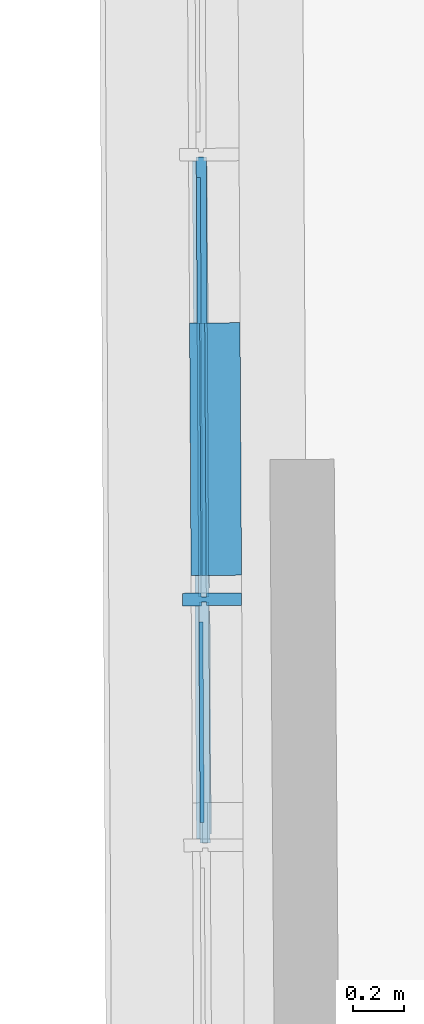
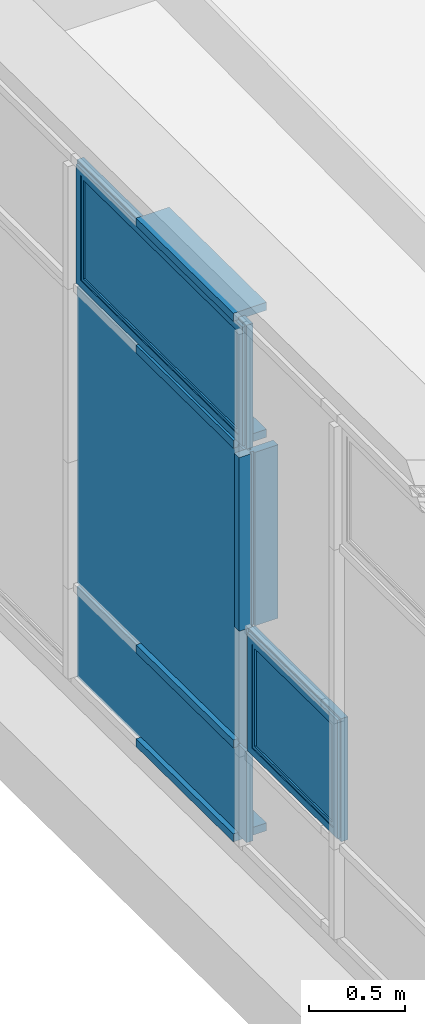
# One storey, part 92 of 158: 11 building element parts, 1 element without a shape of its own.
"""IFC2X3 building model written with IfcOpenShell, lengths in metres."""

from ifc_helpers import new_model, entity, si_unit, converted_unit, derived_unit, money_unit, direction, frame, origin_with_axes, place, context, subcontext, project, spatial, faceted_brep, material, type_object, element, aggregate, save


model = new_model("IFC2X3")

# Units and contexts
model_context = context("Model", 3, precision=1e-05, world=origin_with_axes(), true_north=direction((0.0, 1.0)))
body_context = subcontext(model_context, "Body", "Model", "MODEL_VIEW")
ifc_project = project(units=[si_unit("LENGTHUNIT", "METRE"), si_unit("AREAUNIT", "SQUARE_METRE"), si_unit("VOLUMEUNIT", "CUBIC_METRE"), converted_unit("PLANEANGLEUNIT", "DEGREE", entity("IfcPlaneAngleMeasure", 0.0174532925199), si_unit("PLANEANGLEUNIT", "RADIAN"), dimensions=[0, 0, 0, 0, 0, 0, 0]), money_unit("EUR"), converted_unit("TIMEUNIT", "Year", entity("IfcTimeMeasure", 31556926.0), si_unit("TIMEUNIT", "SECOND"), dimensions=[0, 0, 1, 0, 0, 0, 0]), si_unit("MASSUNIT", "GRAM", prefix="KILO"), si_unit("THERMODYNAMICTEMPERATUREUNIT", "DEGREE_CELSIUS"), si_unit("LUMINOUSINTENSITYUNIT", "LUMEN"), si_unit("ENERGYUNIT", "JOULE", prefix="MEGA"), derived_unit("THERMALCONDUCTANCEUNIT", [(si_unit("POWERUNIT", "WATT"), 1), (si_unit("LENGTHUNIT", "METRE"), -1), (si_unit("THERMODYNAMICTEMPERATUREUNIT", "KELVIN"), -1)]), derived_unit("SPECIFICHEATCAPACITYUNIT", [(si_unit("ENERGYUNIT", "JOULE"), 1), (si_unit("MASSUNIT", "GRAM", prefix="KILO"), -1), (si_unit("THERMODYNAMICTEMPERATUREUNIT", "KELVIN"), -1)]), derived_unit("MASSDENSITYUNIT", [(si_unit("MASSUNIT", "GRAM", prefix="KILO"), 1), (si_unit("VOLUMEUNIT", "CUBIC_METRE"), -1)])], contexts=[model_context])

# Site, building, storey
site_placement = place(None, origin_with_axes())
site = spatial("IfcSite", under=ifc_project, at=site_placement, Name="Gelände", CompositionType="ELEMENT")
building_placement = place(site_placement, origin_with_axes())
building = spatial("IfcBuilding", under=site, at=building_placement, Name="Gebäude", CompositionType="ELEMENT")
storey_placement = place(building_placement, origin_with_axes())
storey = spatial("IfcBuildingStorey", under=building, at=storey_placement, Name="ERDGESCHOSS", CompositionType="ELEMENT", Elevation=0.0)

# Proxy, building element parts
building_element_proxy_type = type_object("IfcBuildingElementProxyType", Name="Fassadentyp", PredefinedType="NOTDEFINED")
proxy_placement = place(storey_placement, frame((-34.8120286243, 34.4012060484, 1.3404389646), z_axis=(0.0, 0.0, 1.0), x_axis=(1.0, 0.0, 0.0)))
proxy = element("IfcBuildingElementProxy", 1, at=proxy_placement, inside=storey, type_object=building_element_proxy_type, Name="Fassade-002")
ifc_material_1 = material(Name="53_Metall, Aluminium")
building_element_part_1_placement = place(proxy_placement, origin_with_axes())
building_element_part_1 = element("IfcBuildingElementPart", 2, at=building_element_part_1_placement, material=ifc_material_1, Name="53_Metall, Aluminium", context=body_context, shape_type="Brep", body=[
    faceted_brep([(-0.0435048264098, 2.30259582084, 2.54500008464), (-0.0334678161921, 0.591203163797, 2.54500008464), (-0.038467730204, 0.5911738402, 2.54500008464), (-0.0485047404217, 2.30256649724, 2.54500008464), (-0.0432409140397, 2.25759659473, 2.59000008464), (-0.0337317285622, 0.636202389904, 2.59000008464), (-0.0387316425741, 0.636173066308, 2.59000008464), (-0.0482408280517, 2.25756727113, 2.59000008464)], [[[0, 1, 2, 3]], [[0, 4, 5, 1]], [[1, 5, 6, 2]], [[3, 2, 6, 7]], [[4, 0, 3, 7]], [[5, 4, 7, 6]]]),
    faceted_brep([(-0.0334678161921, 0.591203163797, 2.54500008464), (-0.0334678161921, 0.591203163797, 3.30000000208), (-0.038467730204, 0.5911738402, 3.30000000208), (-0.038467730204, 0.5911738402, 2.54500008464), (-0.0337317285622, 0.636202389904, 2.59000008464), (-0.0337317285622, 0.636202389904, 3.25500000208), (-0.0387316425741, 0.636173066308, 3.25500000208), (-0.0387316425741, 0.636173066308, 2.59000008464)], [[[0, 1, 2, 3]], [[0, 4, 5, 1]], [[1, 5, 6, 2]], [[3, 2, 6, 7]], [[4, 0, 3, 7]], [[5, 4, 7, 6]]]),
    faceted_brep([(-0.0435048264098, 2.30259582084, 3.30000000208), (-0.0432409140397, 2.25759659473, 3.25500000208), (-0.0482408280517, 2.25756727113, 3.25500000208), (-0.0485047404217, 2.30256649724, 3.30000000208), (-0.0334678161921, 0.591203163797, 3.30000000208), (-0.0337317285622, 0.636202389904, 3.25500000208), (-0.0387316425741, 0.636173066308, 3.25500000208), (-0.038467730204, 0.5911738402, 3.30000000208)], [[[0, 1, 2, 3]], [[0, 4, 5, 1]], [[1, 5, 6, 2]], [[3, 2, 6, 7]], [[4, 0, 3, 7]], [[5, 4, 7, 6]]]),
    faceted_brep([(-0.0435048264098, 2.30259582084, 2.54500008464), (-0.0432409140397, 2.25759659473, 2.59000008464), (-0.0482408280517, 2.25756727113, 2.59000008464), (-0.0485047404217, 2.30256649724, 2.54500008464), (-0.0435048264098, 2.30259582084, 3.30000000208), (-0.0432409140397, 2.25759659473, 3.25500000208), (-0.0482408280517, 2.25756727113, 3.25500000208), (-0.0485047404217, 2.30256649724, 3.30000000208)], [[[0, 1, 2, 3]], [[0, 4, 5, 1]], [[1, 5, 6, 2]], [[3, 2, 6, 7]], [[4, 0, 3, 7]], [[5, 4, 7, 6]]]),
    faceted_brep([(0.00649431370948, 2.3028890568, 2.54500008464), (0.0165313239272, 0.591496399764, 2.54500008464), (-0.0334678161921, 0.591203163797, 2.54500008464), (-0.0435048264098, 2.30259582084, 2.54500008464), (0.00661160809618, 2.28288940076, 2.56500008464), (0.0164140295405, 0.611496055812, 2.56500008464), (-0.0335851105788, 0.611202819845, 2.56500008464), (-0.0433875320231, 2.28259616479, 2.56500008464)], [[[0, 1, 2, 3]], [[0, 4, 5, 1]], [[1, 5, 6, 2]], [[3, 2, 6, 7]], [[4, 0, 3, 7]], [[5, 4, 7, 6]]]),
    faceted_brep([(0.0165313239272, 0.591496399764, 2.54500008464), (0.0165313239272, 0.591496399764, 3.30000000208), (-0.0334678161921, 0.591203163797, 3.30000000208), (-0.0334678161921, 0.591203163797, 2.54500008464), (0.0164140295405, 0.611496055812, 2.56500008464), (0.0164140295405, 0.611496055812, 3.28000000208), (-0.0335851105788, 0.611202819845, 3.28000000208), (-0.0335851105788, 0.611202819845, 2.56500008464)], [[[0, 1, 2, 3]], [[0, 4, 5, 1]], [[1, 5, 6, 2]], [[3, 2, 6, 7]], [[4, 0, 3, 7]], [[5, 4, 7, 6]]]),
    faceted_brep([(0.00649431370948, 2.3028890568, 3.30000000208), (0.00661160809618, 2.28288940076, 3.28000000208), (-0.0433875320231, 2.28259616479, 3.28000000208), (-0.0435048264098, 2.30259582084, 3.30000000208), (0.0165313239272, 0.591496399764, 3.30000000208), (0.0164140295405, 0.611496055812, 3.28000000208), (-0.0335851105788, 0.611202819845, 3.28000000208), (-0.0334678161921, 0.591203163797, 3.30000000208)], [[[0, 1, 2, 3]], [[0, 4, 5, 1]], [[1, 5, 6, 2]], [[3, 2, 6, 7]], [[4, 0, 3, 7]], [[5, 4, 7, 6]]]),
    faceted_brep([(0.00649431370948, 2.3028890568, 2.54500008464), (0.00661160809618, 2.28288940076, 2.56500008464), (-0.0433875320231, 2.28259616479, 2.56500008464), (-0.0435048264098, 2.30259582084, 2.54500008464), (0.00649431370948, 2.3028890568, 3.30000000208), (0.00661160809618, 2.28288940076, 3.28000000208), (-0.0433875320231, 2.28259616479, 3.28000000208), (-0.0435048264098, 2.30259582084, 3.30000000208)], [[[0, 1, 2, 3]], [[0, 4, 5, 1]], [[1, 5, 6, 2]], [[3, 2, 6, 7]], [[4, 0, 3, 7]], [[5, 4, 7, 6]]]),
    faceted_brep([(0.00640634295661, 2.31788879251, 2.53000009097), (0.0166192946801, 0.576496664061, 2.53000009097), (-0.0233800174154, 0.576262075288, 2.53000009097), (-0.0335929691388, 2.31765420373, 2.53000009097), (0.00649431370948, 2.3028890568, 2.54500008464), (0.0165313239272, 0.591496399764, 2.54500008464), (-0.0234679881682, 0.59126181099, 2.54500008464), (-0.0335049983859, 2.30265446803, 2.54500008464)], [[[0, 1, 2, 3]], [[0, 4, 5, 1]], [[1, 5, 6, 2]], [[3, 2, 6, 7]], [[4, 0, 3, 7]], [[5, 4, 7, 6]]]),
    faceted_brep([(0.0166192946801, 0.576496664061, 2.53000009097), (0.0166192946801, 0.576496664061, 3.31499999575), (-0.0233800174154, 0.576262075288, 3.31499999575), (-0.0233800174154, 0.576262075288, 2.53000009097), (0.0165313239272, 0.591496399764, 2.54500008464), (0.0165313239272, 0.591496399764, 3.30000000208), (-0.0234679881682, 0.59126181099, 3.30000000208), (-0.0234679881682, 0.59126181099, 2.54500008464)], [[[0, 1, 2, 3]], [[0, 4, 5, 1]], [[1, 5, 6, 2]], [[3, 2, 6, 7]], [[4, 0, 3, 7]], [[5, 4, 7, 6]]]),
    faceted_brep([(0.0166192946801, 0.576496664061, 3.31499999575), (0.00640634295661, 2.31788879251, 3.31499999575), (-0.0335929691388, 2.31765420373, 3.31499999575), (-0.0233800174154, 0.576262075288, 3.31499999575), (0.0165313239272, 0.591496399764, 3.30000000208), (0.00649431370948, 2.3028890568, 3.30000000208), (-0.0335049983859, 2.30265446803, 3.30000000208), (-0.0234679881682, 0.59126181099, 3.30000000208)], [[[0, 1, 2, 3]], [[0, 4, 5, 1]], [[1, 5, 6, 2]], [[3, 2, 6, 7]], [[4, 0, 3, 7]], [[5, 4, 7, 6]]]),
    faceted_brep([(0.00640634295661, 2.31788879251, 3.31499999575), (0.00640634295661, 2.31788879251, 2.53000009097), (-0.0335929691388, 2.31765420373, 2.53000009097), (-0.0335929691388, 2.31765420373, 3.31499999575), (0.00649431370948, 2.3028890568, 3.30000000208), (0.00649431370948, 2.3028890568, 2.54500008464), (-0.0335049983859, 2.30265446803, 2.54500008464), (-0.0335049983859, 2.30265446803, 3.30000000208)], [[[0, 1, 2, 3]], [[0, 4, 5, 1]], [[1, 5, 6, 2]], [[3, 2, 6, 7]], [[4, 0, 3, 7]], [[5, 4, 7, 6]]]),
    faceted_brep([(-0.043123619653, 2.23759693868, 2.61000008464), (0.0118754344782, 2.23791949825, 2.61000008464), (0.0118754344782, 2.23791949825, 3.23500000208), (-0.043123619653, 2.23759693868, 3.23500000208), (-0.0433875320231, 2.28259616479, 2.56500008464), (0.0116115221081, 2.28291872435, 2.56500008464), (0.0116115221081, 2.28291872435, 3.28000000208), (-0.0433875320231, 2.28259616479, 3.28000000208)], [[[0, 1, 2, 3]], [[4, 5, 1, 0]], [[1, 5, 6, 2]], [[3, 2, 6, 7]], [[0, 3, 7, 4]], [[7, 6, 5, 4]]]),
    faceted_brep([(-0.0335851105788, 0.611202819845, 2.56500008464), (0.0214139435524, 0.611525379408, 2.56500008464), (0.0214139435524, 0.611525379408, 3.28000000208), (-0.0335851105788, 0.611202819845, 3.28000000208), (-0.0338490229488, 0.656202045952, 2.61000008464), (0.0211500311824, 0.656524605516, 2.61000008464), (0.0211500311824, 0.656524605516, 3.23500000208), (-0.0338490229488, 0.656202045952, 3.23500000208)], [[[0, 1, 2, 3]], [[4, 5, 1, 0]], [[1, 5, 6, 2]], [[3, 2, 6, 7]], [[0, 3, 7, 4]], [[7, 6, 5, 4]]]),
    faceted_brep([(-0.0335851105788, 0.611202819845, 2.56500008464), (0.0214139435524, 0.611525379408, 2.56500008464), (0.0211500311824, 0.656524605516, 2.61000008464), (-0.0338490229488, 0.656202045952, 2.61000008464), (-0.0433875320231, 2.28259616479, 2.56500008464), (0.0116115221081, 2.28291872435, 2.56500008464), (0.0118754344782, 2.23791949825, 2.61000008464), (-0.043123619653, 2.23759693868, 2.61000008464)], [[[0, 1, 2, 3]], [[4, 5, 1, 0]], [[1, 5, 6, 2]], [[3, 2, 6, 7]], [[0, 3, 7, 4]], [[7, 6, 5, 4]]]),
    faceted_brep([(-0.0433875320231, 2.28259616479, 3.28000000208), (0.0116115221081, 2.28291872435, 3.28000000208), (0.0118754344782, 2.23791949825, 3.23500000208), (-0.043123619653, 2.23759693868, 3.23500000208), (-0.0335851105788, 0.611202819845, 3.28000000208), (0.0214139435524, 0.611525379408, 3.28000000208), (0.0211500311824, 0.656524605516, 3.23500000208), (-0.0338490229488, 0.656202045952, 3.23500000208)], [[[0, 1, 2, 3]], [[4, 5, 1, 0]], [[1, 5, 6, 2]], [[3, 2, 6, 7]], [[0, 3, 7, 4]], [[7, 6, 5, 4]]]),
])
ifc_material_2 = material(Name="45_Glas, Normalglas")
building_element_part_2_placement = place(proxy_placement, origin_with_axes())
building_element_part_2 = element("IfcBuildingElementPart", 3, at=building_element_part_2_placement, material=ifc_material_2, Name="45_Glas, Normalglas", context=body_context, shape_type="Brep", body=[
    faceted_brep([(-0.0331237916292, 2.23765558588, 2.61000008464), (-0.017124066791, 2.23774942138, 2.61000008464), (-0.00784947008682, 0.656354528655, 2.61000008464), (-0.023849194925, 0.656260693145, 2.61000008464), (-0.0331237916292, 2.23765558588, 3.23500000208), (-0.017124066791, 2.23774942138, 3.23500000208), (-0.00784947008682, 0.656354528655, 3.23500000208), (-0.023849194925, 0.656260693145, 3.23500000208)], [[[0, 1, 2, 3]], [[4, 5, 1, 0]], [[1, 5, 6, 2]], [[3, 2, 6, 7]], [[0, 3, 7, 4]], [[7, 6, 5, 4]]]),
])
building_element_part_3_placement = place(proxy_placement, origin_with_axes())
building_element_part_3 = element("IfcBuildingElementPart", 4, at=building_element_part_3_placement, material=ifc_material_1, Name="53_Metall, Aluminium", context=body_context, shape_type="Brep", body=[
    faceted_brep([(-0.0331745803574, 0.541204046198, 0.645000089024), (-0.0277569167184, -0.382552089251, 0.645000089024), (-0.0327568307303, -0.382581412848, 0.645000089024), (-0.0381744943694, 0.541174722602, 0.645000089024), (-0.0329106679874, 0.496204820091, 0.690000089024), (-0.0280208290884, -0.337552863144, 0.690000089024), (-0.0330207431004, -0.337582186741, 0.690000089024), (-0.0379105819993, 0.496175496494, 0.690000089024)], [[[0, 1, 2, 3]], [[0, 4, 5, 1]], [[1, 5, 6, 2]], [[3, 2, 6, 7]], [[4, 0, 3, 7]], [[5, 4, 7, 6]]]),
    faceted_brep([(-0.0277569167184, -0.382552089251, 0.645000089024), (-0.0277569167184, -0.382552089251, 1.39500009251), (-0.0327568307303, -0.382581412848, 1.39500009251), (-0.0327568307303, -0.382581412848, 0.645000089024), (-0.0280208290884, -0.337552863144, 0.690000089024), (-0.0280208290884, -0.337552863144, 1.35000009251), (-0.0330207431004, -0.337582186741, 1.35000009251), (-0.0330207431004, -0.337582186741, 0.690000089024)], [[[0, 1, 2, 3]], [[0, 4, 5, 1]], [[1, 5, 6, 2]], [[3, 2, 6, 7]], [[4, 0, 3, 7]], [[5, 4, 7, 6]]]),
    faceted_brep([(-0.0331745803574, 0.541204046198, 1.39500009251), (-0.0329106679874, 0.496204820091, 1.35000009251), (-0.0379105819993, 0.496175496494, 1.35000009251), (-0.0381744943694, 0.541174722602, 1.39500009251), (-0.0277569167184, -0.382552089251, 1.39500009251), (-0.0280208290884, -0.337552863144, 1.35000009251), (-0.0330207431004, -0.337582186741, 1.35000009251), (-0.0327568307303, -0.382581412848, 1.39500009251)], [[[0, 1, 2, 3]], [[0, 4, 5, 1]], [[1, 5, 6, 2]], [[3, 2, 6, 7]], [[4, 0, 3, 7]], [[5, 4, 7, 6]]]),
    faceted_brep([(-0.0331745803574, 0.541204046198, 0.645000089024), (-0.0329106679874, 0.496204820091, 0.690000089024), (-0.0379105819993, 0.496175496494, 0.690000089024), (-0.0381744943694, 0.541174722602, 0.645000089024), (-0.0331745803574, 0.541204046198, 1.39500009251), (-0.0329106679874, 0.496204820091, 1.35000009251), (-0.0379105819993, 0.496175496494, 1.35000009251), (-0.0381744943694, 0.541174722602, 1.39500009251)], [[[0, 1, 2, 3]], [[0, 4, 5, 1]], [[1, 5, 6, 2]], [[3, 2, 6, 7]], [[4, 0, 3, 7]], [[5, 4, 7, 6]]]),
    faceted_brep([(0.0168245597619, 0.541497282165, 0.645000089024), (0.0222422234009, -0.382258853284, 0.645000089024), (-0.0277569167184, -0.382552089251, 0.645000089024), (-0.0331745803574, 0.541204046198, 0.645000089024), (0.0169418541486, 0.521497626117, 0.665000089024), (0.0221249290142, -0.362259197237, 0.665000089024), (-0.0278742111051, -0.362552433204, 0.665000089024), (-0.0330572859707, 0.521204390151, 0.665000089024)], [[[0, 1, 2, 3]], [[0, 4, 5, 1]], [[1, 5, 6, 2]], [[3, 2, 6, 7]], [[4, 0, 3, 7]], [[5, 4, 7, 6]]]),
    faceted_brep([(0.0222422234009, -0.382258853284, 0.645000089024), (0.0222422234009, -0.382258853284, 1.39500009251), (-0.0277569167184, -0.382552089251, 1.39500009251), (-0.0277569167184, -0.382552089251, 0.645000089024), (0.0221249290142, -0.362259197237, 0.665000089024), (0.0221249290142, -0.362259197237, 1.37500009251), (-0.0278742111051, -0.362552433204, 1.37500009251), (-0.0278742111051, -0.362552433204, 0.665000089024)], [[[0, 1, 2, 3]], [[0, 4, 5, 1]], [[1, 5, 6, 2]], [[3, 2, 6, 7]], [[4, 0, 3, 7]], [[5, 4, 7, 6]]]),
    faceted_brep([(0.0168245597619, 0.541497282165, 1.39500009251), (0.0169418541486, 0.521497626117, 1.37500009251), (-0.0330572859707, 0.521204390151, 1.37500009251), (-0.0331745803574, 0.541204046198, 1.39500009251), (0.0222422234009, -0.382258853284, 1.39500009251), (0.0221249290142, -0.362259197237, 1.37500009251), (-0.0278742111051, -0.362552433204, 1.37500009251), (-0.0277569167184, -0.382552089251, 1.39500009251)], [[[0, 1, 2, 3]], [[0, 4, 5, 1]], [[1, 5, 6, 2]], [[3, 2, 6, 7]], [[4, 0, 3, 7]], [[5, 4, 7, 6]]]),
    faceted_brep([(0.0168245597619, 0.541497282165, 0.645000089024), (0.0169418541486, 0.521497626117, 0.665000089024), (-0.0330572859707, 0.521204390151, 0.665000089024), (-0.0331745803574, 0.541204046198, 0.645000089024), (0.0168245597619, 0.541497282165, 1.39500009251), (0.0169418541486, 0.521497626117, 1.37500009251), (-0.0330572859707, 0.521204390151, 1.37500009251), (-0.0331745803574, 0.541204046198, 1.39500009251)], [[[0, 1, 2, 3]], [[0, 4, 5, 1]], [[1, 5, 6, 2]], [[3, 2, 6, 7]], [[4, 0, 3, 7]], [[5, 4, 7, 6]]]),
    faceted_brep([(0.0167365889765, 0.5564970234, 0.630000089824), (0.0223301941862, -0.397258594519, 0.630000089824), (-0.0176691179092, -0.397493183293, 0.630000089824), (-0.0232627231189, 0.556262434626, 0.630000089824), (0.0168245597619, 0.541497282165, 0.645000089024), (0.0222422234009, -0.382258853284, 0.645000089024), (-0.0177570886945, -0.382493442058, 0.645000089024), (-0.0231747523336, 0.541262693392, 0.645000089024)], [[[0, 1, 2, 3]], [[0, 4, 5, 1]], [[1, 5, 6, 2]], [[3, 2, 6, 7]], [[4, 0, 3, 7]], [[5, 4, 7, 6]]]),
    faceted_brep([(0.0223301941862, -0.397258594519, 0.630000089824), (0.0223301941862, -0.397258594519, 1.41000009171), (-0.0176691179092, -0.397493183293, 1.41000009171), (-0.0176691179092, -0.397493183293, 0.630000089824), (0.0222422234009, -0.382258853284, 0.645000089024), (0.0222422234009, -0.382258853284, 1.39500009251), (-0.0177570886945, -0.382493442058, 1.39500009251), (-0.0177570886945, -0.382493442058, 0.645000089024)], [[[0, 1, 2, 3]], [[0, 4, 5, 1]], [[1, 5, 6, 2]], [[3, 2, 6, 7]], [[4, 0, 3, 7]], [[5, 4, 7, 6]]]),
    faceted_brep([(0.0223301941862, -0.397258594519, 1.41000009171), (0.0167365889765, 0.5564970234, 1.41000009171), (-0.0232627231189, 0.556262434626, 1.41000009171), (-0.0176691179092, -0.397493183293, 1.41000009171), (0.0222422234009, -0.382258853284, 1.39500009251), (0.0168245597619, 0.541497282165, 1.39500009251), (-0.0231747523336, 0.541262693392, 1.39500009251), (-0.0177570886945, -0.382493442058, 1.39500009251)], [[[0, 1, 2, 3]], [[0, 4, 5, 1]], [[1, 5, 6, 2]], [[3, 2, 6, 7]], [[4, 0, 3, 7]], [[5, 4, 7, 6]]]),
    faceted_brep([(0.0167365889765, 0.5564970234, 1.41000009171), (0.0167365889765, 0.5564970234, 0.630000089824), (-0.0232627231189, 0.556262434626, 0.630000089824), (-0.0232627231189, 0.556262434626, 1.41000009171), (0.0168245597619, 0.541497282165, 1.39500009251), (0.0168245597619, 0.541497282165, 0.645000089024), (-0.0231747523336, 0.541262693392, 0.645000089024), (-0.0231747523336, 0.541262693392, 1.39500009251)], [[[0, 1, 2, 3]], [[0, 4, 5, 1]], [[1, 5, 6, 2]], [[3, 2, 6, 7]], [[4, 0, 3, 7]], [[5, 4, 7, 6]]]),
    faceted_brep([(-0.0327933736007, 0.476205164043, 0.710000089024), (0.0222056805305, 0.476527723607, 0.710000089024), (0.0222056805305, 0.476527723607, 1.33000009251), (-0.0327933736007, 0.476205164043, 1.33000009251), (-0.0330572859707, 0.521204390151, 0.665000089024), (0.0219417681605, 0.521526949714, 0.665000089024), (0.0219417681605, 0.521526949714, 1.37500009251), (-0.0330572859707, 0.521204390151, 1.37500009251)], [[[0, 1, 2, 3]], [[4, 5, 1, 0]], [[1, 5, 6, 2]], [[3, 2, 6, 7]], [[0, 3, 7, 4]], [[7, 6, 5, 4]]]),
    faceted_brep([(-0.0278742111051, -0.362552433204, 0.665000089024), (0.0271248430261, -0.36222987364, 0.665000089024), (0.0271248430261, -0.36222987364, 1.37500009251), (-0.0278742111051, -0.362552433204, 1.37500009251), (-0.0281381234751, -0.317553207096, 0.710000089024), (0.0268609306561, -0.317230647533, 0.710000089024), (0.0268609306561, -0.317230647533, 1.33000009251), (-0.0281381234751, -0.317553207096, 1.33000009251)], [[[0, 1, 2, 3]], [[4, 5, 1, 0]], [[1, 5, 6, 2]], [[3, 2, 6, 7]], [[0, 3, 7, 4]], [[7, 6, 5, 4]]]),
    faceted_brep([(-0.0278742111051, -0.362552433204, 0.665000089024), (0.0271248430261, -0.36222987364, 0.665000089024), (0.0268609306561, -0.317230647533, 0.710000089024), (-0.0281381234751, -0.317553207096, 0.710000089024), (-0.0330572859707, 0.521204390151, 0.665000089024), (0.0219417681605, 0.521526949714, 0.665000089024), (0.0222056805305, 0.476527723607, 0.710000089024), (-0.0327933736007, 0.476205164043, 0.710000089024)], [[[0, 1, 2, 3]], [[4, 5, 1, 0]], [[1, 5, 6, 2]], [[3, 2, 6, 7]], [[0, 3, 7, 4]], [[7, 6, 5, 4]]]),
    faceted_brep([(-0.0330572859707, 0.521204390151, 1.37500009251), (0.0219417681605, 0.521526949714, 1.37500009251), (0.0222056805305, 0.476527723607, 1.33000009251), (-0.0327933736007, 0.476205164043, 1.33000009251), (-0.0278742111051, -0.362552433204, 1.37500009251), (0.0271248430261, -0.36222987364, 1.37500009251), (0.0268609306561, -0.317230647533, 1.33000009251), (-0.0281381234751, -0.317553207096, 1.33000009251)], [[[0, 1, 2, 3]], [[4, 5, 1, 0]], [[1, 5, 6, 2]], [[3, 2, 6, 7]], [[0, 3, 7, 4]], [[7, 6, 5, 4]]]),
])
building_element_part_4_placement = place(proxy_placement, origin_with_axes())
building_element_part_4 = element("IfcBuildingElementPart", 5, at=building_element_part_4_placement, material=ifc_material_2, Name="45_Glas, Normalglas", context=body_context, shape_type="Brep", body=[
    faceted_brep([(-0.0227935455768, 0.476263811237, 0.710000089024), (-0.00679382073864, 0.476357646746, 0.710000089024), (-0.00213857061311, -0.317400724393, 0.710000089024), (-0.0181382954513, -0.317494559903, 0.710000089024), (-0.0227935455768, 0.476263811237, 1.33000009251), (-0.00679382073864, 0.476357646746, 1.33000009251), (-0.00213857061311, -0.317400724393, 1.33000009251), (-0.0181382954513, -0.317494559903, 1.33000009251)], [[[0, 1, 2, 3]], [[4, 5, 1, 0]], [[1, 5, 6, 2]], [[3, 2, 6, 7]], [[0, 3, 7, 4]], [[7, 6, 5, 4]]]),
])
building_element_part_5_placement = place(proxy_placement, origin_with_axes())
building_element_part_5 = element("IfcBuildingElementPart", 6, at=building_element_part_5_placement, material=ifc_material_2, Name="45_Glas, Normalglas", context=body_context, shape_type="Brep", body=[
    faceted_brep([(0.0166192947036, 0.576496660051, 2.51000010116), (0.0161202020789, 0.661596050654, 2.51000010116), (-0.0238791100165, 0.661361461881, 2.51000010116), (-0.0233800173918, 0.576262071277, 2.51000010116), (0.0166192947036, 0.576496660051, 1.42000009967), (0.0166192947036, 0.576496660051, 0.630000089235), (0.0161202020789, 0.661596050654, 0.630000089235), (0.0102554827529, 1.66157885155, 0.630000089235), (0.00640634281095, 2.31788881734, 0.630000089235), (0.006406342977, 2.31788878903, 1.42000009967), (0.006406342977, 2.31788878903, 2.51000010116), (0.0102554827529, 1.66157885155, 2.51000010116), (-0.0297438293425, 1.66134426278, 2.51000010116), (-0.0335929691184, 2.31765420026, 2.51000010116), (-0.0335929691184, 2.31765420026, 1.42000009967), (-0.0335929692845, 2.31765422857, 0.630000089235), (-0.0297438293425, 1.66134426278, 0.630000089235), (-0.0238791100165, 0.661361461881, 0.630000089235), (-0.0233800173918, 0.576262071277, 0.630000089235), (-0.0233800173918, 0.576262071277, 1.42000009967)], [[[0, 1, 2, 3]], [[0, 4, 5, 6, 7, 8, 9, 10, 11, 1]], [[1, 11, 12, 2]], [[3, 2, 12, 13, 14, 15, 16, 17, 18, 19]], [[4, 0, 3, 19]], [[5, 4, 19, 18]], [[6, 5, 18, 17]], [[7, 6, 17, 16]], [[8, 7, 16, 15]], [[9, 8, 15, 14]], [[10, 9, 14, 13]], [[11, 10, 13, 12]]]),
])
building_element_part_6_placement = place(proxy_placement, origin_with_axes())
building_element_part_6 = element("IfcBuildingElementPart", 7, at=building_element_part_6_placement, material=ifc_material_2, Name="45_Glas, Normalglas", context=body_context, shape_type="Brep", body=[
    faceted_brep([(0.0166192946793, 0.576496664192, 0.6100000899), (0.0161202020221, 0.661596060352, 0.6100000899), (-0.0238791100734, 0.661361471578, 0.6100000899), (-0.0233800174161, 0.576262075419, 0.6100000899), (0.0166192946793, 0.576496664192, 0.0350000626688), (0.0161202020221, 0.661596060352, 0.0350000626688), (0.0102554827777, 1.66157884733, 0.0350000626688), (0.00640634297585, 2.31788878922, 0.0350000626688), (0.00640634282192, 2.31788881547, 0.6100000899), (0.0102554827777, 1.66157884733, 0.6100000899), (-0.0297438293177, 1.66134425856, 0.6100000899), (-0.0335929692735, 2.3176542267, 0.6100000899), (-0.0335929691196, 2.31765420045, 0.0350000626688), (-0.0297438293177, 1.66134425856, 0.0350000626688), (-0.0238791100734, 0.661361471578, 0.0350000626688), (-0.0233800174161, 0.576262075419, 0.0350000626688)], [[[0, 1, 2, 3]], [[0, 4, 5, 6, 7, 8, 9, 1]], [[1, 9, 10, 2]], [[3, 2, 10, 11, 12, 13, 14, 15]], [[4, 0, 3, 15]], [[5, 4, 15, 14]], [[6, 5, 14, 13]], [[7, 6, 13, 12]], [[8, 7, 12, 11]], [[9, 8, 11, 10]]]),
])
building_element_part_7_placement = place(proxy_placement, origin_with_axes())
building_element_part_7 = element("IfcBuildingElementPart", 8, at=building_element_part_7_placement, material=ifc_material_1, Name="53_Metall, Aluminium", context=body_context, shape_type="Brep", body=[
    faceted_brep([(0.00612037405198, 0.661537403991, 0.0350000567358), (-0.0138792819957, 0.661420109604, 0.0350000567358), (-0.0138792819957, 0.661420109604, 0.0500000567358), (-0.0538785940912, 0.661185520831, 0.0500000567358), (-0.0538785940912, 0.661185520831, 5.6735754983e-08), (0.146117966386, 0.662358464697, 5.6735754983e-08), (0.146117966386, 0.662358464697, 0.0500000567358), (0.00612037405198, 0.661537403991, 0.0500000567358), (0.000255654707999, 1.66152020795, 0.0350000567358), (-0.0197440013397, 1.66140291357, 0.0350000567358), (-0.0197440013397, 1.66140291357, 0.0500000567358), (-0.0597433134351, 1.66116832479, 0.0500000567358), (-0.0597433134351, 1.66116832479, 5.6735754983e-08), (0.140253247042, 1.66234126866, 5.6735754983e-08), (0.140253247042, 1.66234126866, 0.0500000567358), (0.000255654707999, 1.66152020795, 0.0500000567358)], [[[0, 1, 2, 3, 4, 5, 6, 7]], [[1, 0, 8, 9]], [[10, 2, 1, 9]], [[2, 10, 11, 3]], [[12, 4, 3, 11]], [[13, 5, 4, 12]], [[14, 6, 5, 13]], [[15, 7, 6, 14]], [[0, 7, 15, 8]], [[8, 15, 14, 13, 12, 11, 10, 9]]]),
])
building_element_part_8_placement = place(proxy_placement, origin_with_axes())
building_element_part_8 = element("IfcBuildingElementPart", 9, at=building_element_part_8_placement, material=ifc_material_1, Name="53_Metall, Aluminium", context=body_context, shape_type="Brep", body=[
    faceted_brep([(0.00612037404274, 0.661537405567, 2.5100000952), (0.00612037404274, 0.661537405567, 2.4950000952), (0.146117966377, 0.662358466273, 2.4950000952), (0.146117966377, 0.662358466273, 2.5450000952), (0.00612037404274, 0.661537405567, 2.5450000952), (0.00612037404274, 0.661537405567, 2.5300000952), (-0.013879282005, 0.66142011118, 2.5300000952), (-0.013879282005, 0.66142011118, 2.5450000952), (-0.0538785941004, 0.661185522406, 2.5450000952), (-0.0538785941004, 0.661185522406, 2.4950000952), (-0.013879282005, 0.66142011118, 2.4950000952), (-0.013879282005, 0.66142011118, 2.5100000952), (0.000255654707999, 1.66152020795, 2.5100000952), (0.000255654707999, 1.66152020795, 2.4950000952), (0.140253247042, 1.66234126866, 2.4950000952), (0.140253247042, 1.66234126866, 2.5450000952), (0.000255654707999, 1.66152020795, 2.5450000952), (0.000255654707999, 1.66152020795, 2.5300000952), (-0.0197440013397, 1.66140291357, 2.5300000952), (-0.0197440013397, 1.66140291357, 2.5450000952), (-0.0597433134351, 1.66116832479, 2.5450000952), (-0.0597433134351, 1.66116832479, 2.4950000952), (-0.0197440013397, 1.66140291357, 2.4950000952), (-0.0197440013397, 1.66140291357, 2.5100000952)], [[[0, 1, 2, 3, 4, 5, 6, 7, 8, 9, 10, 11]], [[1, 0, 12, 13]], [[1, 13, 14, 2]], [[3, 2, 14, 15]], [[4, 3, 15, 16]], [[4, 16, 17, 5]], [[5, 17, 18, 6]], [[7, 6, 18, 19]], [[19, 20, 8, 7]], [[9, 8, 20, 21]], [[22, 10, 9, 21]], [[11, 10, 22, 23]], [[0, 11, 23, 12]], [[23, 22, 21, 20, 19, 18, 17, 16, 15, 14, 13, 12]]]),
])
building_element_part_9_placement = place(proxy_placement, origin_with_axes())
building_element_part_9 = element("IfcBuildingElementPart", 10, at=building_element_part_9_placement, material=ifc_material_1, Name="53_Metall, Aluminium", context=body_context, shape_type="Brep", body=[
    faceted_brep([(0.00612037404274, 0.661537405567, 0.610000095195), (0.00612037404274, 0.661537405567, 0.595000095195), (0.146117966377, 0.662358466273, 0.595000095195), (0.146117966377, 0.662358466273, 0.645000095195), (0.00612037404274, 0.661537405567, 0.645000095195), (0.00612037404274, 0.661537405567, 0.630000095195), (-0.013879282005, 0.66142011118, 0.630000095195), (-0.013879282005, 0.66142011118, 0.645000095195), (-0.0538785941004, 0.661185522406, 0.645000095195), (-0.0538785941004, 0.661185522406, 0.595000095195), (-0.013879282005, 0.66142011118, 0.595000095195), (-0.013879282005, 0.66142011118, 0.610000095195), (0.000255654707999, 1.66152020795, 0.610000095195), (0.000255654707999, 1.66152020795, 0.595000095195), (0.140253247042, 1.66234126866, 0.595000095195), (0.140253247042, 1.66234126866, 0.645000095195), (0.000255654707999, 1.66152020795, 0.645000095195), (0.000255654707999, 1.66152020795, 0.630000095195), (-0.0197440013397, 1.66140291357, 0.630000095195), (-0.0197440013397, 1.66140291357, 0.645000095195), (-0.0597433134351, 1.66116832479, 0.645000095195), (-0.0597433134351, 1.66116832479, 0.595000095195), (-0.0197440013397, 1.66140291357, 0.595000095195), (-0.0197440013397, 1.66140291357, 0.610000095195)], [[[0, 1, 2, 3, 4, 5, 6, 7, 8, 9, 10, 11]], [[1, 0, 12, 13]], [[1, 13, 14, 2]], [[3, 2, 14, 15]], [[4, 3, 15, 16]], [[4, 16, 17, 5]], [[5, 17, 18, 6]], [[7, 6, 18, 19]], [[19, 20, 8, 7]], [[9, 8, 20, 21]], [[22, 10, 9, 21]], [[11, 10, 22, 23]], [[0, 11, 23, 12]], [[23, 22, 21, 20, 19, 18, 17, 16, 15, 14, 13, 12]]]),
])
building_element_part_10_placement = place(proxy_placement, origin_with_axes())
building_element_part_10 = element("IfcBuildingElementPart", 11, at=building_element_part_10_placement, material=ifc_material_1, Name="53_Metall, Aluminium", context=body_context, shape_type="Brep", body=[
    faceted_brep([(0.00673676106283, 0.556438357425, 2.52000009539), (0.00682473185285, 0.541438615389, 2.52000009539), (0.146822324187, 0.542259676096, 2.52000009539), (0.14652908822, 0.592258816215, 2.52000009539), (0.00653149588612, 0.591437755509, 2.52000009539), (0.00661946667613, 0.576438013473, 2.52000009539), (-0.0133801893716, 0.576320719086, 2.52000009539), (-0.0134681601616, 0.591320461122, 2.52000009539), (-0.0884668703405, 0.590880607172, 2.52000009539), (-0.0881736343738, 0.540881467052, 2.52000009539), (-0.0131749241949, 0.541321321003, 2.52000009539), (-0.0132628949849, 0.556321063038, 2.52000009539), (0.00673676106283, 0.556438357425, 1.420000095), (0.00682473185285, 0.541438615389, 1.420000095), (0.146822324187, 0.542259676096, 1.420000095), (0.14652908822, 0.592258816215, 1.420000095), (0.00653149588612, 0.591437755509, 1.420000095), (0.00661946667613, 0.576438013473, 1.420000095), (-0.0133801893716, 0.576320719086, 1.420000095), (-0.0134681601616, 0.591320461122, 1.420000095), (-0.0884668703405, 0.590880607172, 1.420000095), (-0.0881736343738, 0.540881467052, 1.420000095), (-0.0131749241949, 0.541321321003, 1.420000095), (-0.0132628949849, 0.556321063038, 1.420000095)], [[[0, 1, 2, 3, 4, 5, 6, 7, 8, 9, 10, 11]], [[1, 0, 12, 13]], [[1, 13, 14, 2]], [[3, 2, 14, 15]], [[4, 3, 15, 16]], [[4, 16, 17, 5]], [[5, 17, 18, 6]], [[7, 6, 18, 19]], [[19, 20, 8, 7]], [[9, 8, 20, 21]], [[22, 10, 9, 21]], [[11, 10, 22, 23]], [[0, 11, 23, 12]], [[23, 22, 21, 20, 19, 18, 17, 16, 15, 14, 13, 12]]]),
])
building_element_part_11_placement = place(proxy_placement, origin_with_axes())
building_element_part_11 = element("IfcBuildingElementPart", 12, at=building_element_part_11_placement, material=ifc_material_1, Name="53_Metall, Aluminium", context=body_context, shape_type="Brep", body=[
    faceted_brep([(0.00612037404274, 0.661537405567, 3.31499999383), (0.00612037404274, 0.661537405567, 3.29999999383), (0.146117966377, 0.662358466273, 3.29999999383), (0.146117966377, 0.662358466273, 3.34999999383), (-0.0538785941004, 0.661185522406, 3.34999999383), (-0.0538785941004, 0.661185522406, 3.29999999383), (-0.013879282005, 0.66142011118, 3.29999999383), (-0.013879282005, 0.66142011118, 3.31499999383), (0.000255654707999, 1.66152020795, 3.31499999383), (0.000255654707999, 1.66152020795, 3.29999999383), (0.140253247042, 1.66234126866, 3.29999999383), (0.140253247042, 1.66234126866, 3.34999999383), (-0.0597433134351, 1.66116832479, 3.34999999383), (-0.0597433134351, 1.66116832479, 3.29999999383), (-0.0197440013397, 1.66140291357, 3.29999999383), (-0.0197440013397, 1.66140291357, 3.31499999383)], [[[0, 1, 2, 3, 4, 5, 6, 7]], [[0, 8, 9, 1]], [[9, 10, 2, 1]], [[10, 11, 3, 2]], [[11, 12, 4, 3]], [[12, 13, 5, 4]], [[6, 5, 13, 14]], [[14, 15, 7, 6]], [[7, 15, 8, 0]], [[8, 15, 14, 13, 12, 11, 10, 9]]]),
])
aggregate(proxy, [building_element_part_1, building_element_part_2, building_element_part_3, building_element_part_4, building_element_part_5, building_element_part_6, building_element_part_7, building_element_part_8, building_element_part_9, building_element_part_10, building_element_part_11])

save(model, "model.ifc")
